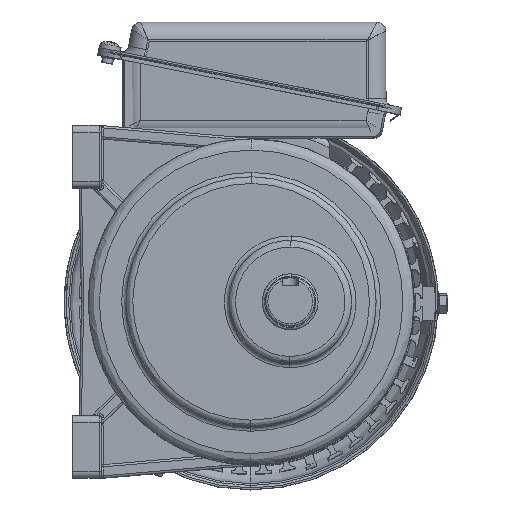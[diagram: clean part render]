
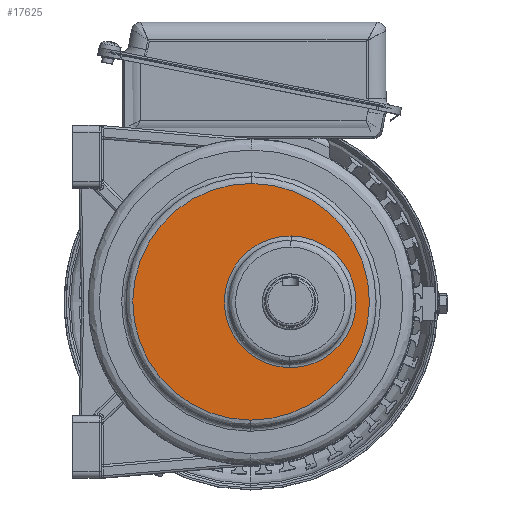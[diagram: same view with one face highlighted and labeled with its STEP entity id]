
A CAD part, top view. The second image highlights one B-rep face of the part: STEP entity #17625.
In plain terms, the highlighted planar face has unit normal (0, 0, 1) as drawn and (0, 1, 0) by its records, which use the part's own axes.
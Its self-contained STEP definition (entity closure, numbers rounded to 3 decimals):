
#197 = CARTESIAN_POINT ( 'NONE',  ( 0., 68., 0. ) ) ;
#217 = DIRECTION ( 'NONE',  ( 0., 0., 1. ) ) ;
#218 = DIRECTION ( 'NONE',  ( 0., 1., 0. ) ) ;
#219 = CARTESIAN_POINT ( 'NONE',  ( 0., 68., 0. ) ) ;
#220 = AXIS2_PLACEMENT_3D ( 'NONE', #219, #218, #217 ) ;
#221 = PLANE ( 'NONE',  #220 ) ;
#222 = FACE_OUTER_BOUND ( 'NONE', #17629, .T. ) ;
#223 = FACE_BOUND ( 'NONE', #17626, .T. ) ;
#229 = DIRECTION ( 'NONE',  ( 1., 0., 0. ) ) ;
#230 = DIRECTION ( 'NONE',  ( 0., 1., 0. ) ) ;
#231 = AXIS2_PLACEMENT_3D ( 'NONE', #197, #230, #229 ) ;
#232 = CIRCLE ( 'NONE', #231, 53. ) ;
#17168 = VERTEX_POINT ( 'NONE', #49574 ) ;
#17170 = EDGE_CURVE ( 'NONE', #17168, #17171, #49573, .T. ) ;
#17171 = VERTEX_POINT ( 'NONE', #49568 ) ;
#17177 = EDGE_CURVE ( 'NONE', #17178, #17179, #49561, .T. ) ;
#17178 = VERTEX_POINT ( 'NONE', #49556 ) ;
#17179 = VERTEX_POINT ( 'NONE', #49555 ) ;
#17563 = EDGE_CURVE ( 'NONE', #17171, #17168, #50517, .T. ) ;
#17606 = ORIENTED_EDGE ( 'NONE', *, *, #17620, .T. ) ;
#17607 = ORIENTED_EDGE ( 'NONE', *, *, #17177, .T. ) ;
#17620 = EDGE_CURVE ( 'NONE', #17179, #17178, #232, .T. ) ;
#17625 = ADVANCED_FACE ( 'NONE', ( #223, #222 ), #221, .T. ) ;
#17626 = EDGE_LOOP ( 'NONE', ( #17627, #17628 ) ) ;
#17627 = ORIENTED_EDGE ( 'NONE', *, *, #17563, .F. ) ;
#17628 = ORIENTED_EDGE ( 'NONE', *, *, #17170, .F. ) ;
#17629 = EDGE_LOOP ( 'NONE', ( #17606, #17607 ) ) ;
#49555 = CARTESIAN_POINT ( 'NONE',  ( 52.999, 68., 0.348 ) ) ;
#49556 = CARTESIAN_POINT ( 'NONE',  ( -52.999, 68., -0.348 ) ) ;
#49557 = DIRECTION ( 'NONE',  ( 1., 0., 0. ) ) ;
#49558 = DIRECTION ( 'NONE',  ( 0., 1., 0. ) ) ;
#49559 = CARTESIAN_POINT ( 'NONE',  ( 0., 68., 0. ) ) ;
#49560 = AXIS2_PLACEMENT_3D ( 'NONE', #49559, #49558, #49557 ) ;
#49561 = CIRCLE ( 'NONE', #49560, 53. ) ;
#49568 = CARTESIAN_POINT ( 'NONE',  ( 29.497, 68., -17.106 ) ) ;
#49569 = DIRECTION ( 'NONE',  ( -1., 0., 0. ) ) ;
#49570 = DIRECTION ( 'NONE',  ( 0., 1., 0. ) ) ;
#49571 = CARTESIAN_POINT ( 'NONE',  ( 0., 68., -17.5 ) ) ;
#49572 = AXIS2_PLACEMENT_3D ( 'NONE', #49571, #49570, #49569 ) ;
#49573 = CIRCLE ( 'NONE', #49572, 29.5 ) ;
#49574 = CARTESIAN_POINT ( 'NONE',  ( -29.497, 68., -17.894 ) ) ;
#50513 = DIRECTION ( 'NONE',  ( -1., 0., 0. ) ) ;
#50514 = DIRECTION ( 'NONE',  ( 0., 1., 0. ) ) ;
#50515 = CARTESIAN_POINT ( 'NONE',  ( 0., 68., -17.5 ) ) ;
#50516 = AXIS2_PLACEMENT_3D ( 'NONE', #50515, #50514, #50513 ) ;
#50517 = CIRCLE ( 'NONE', #50516, 29.5 ) ;
